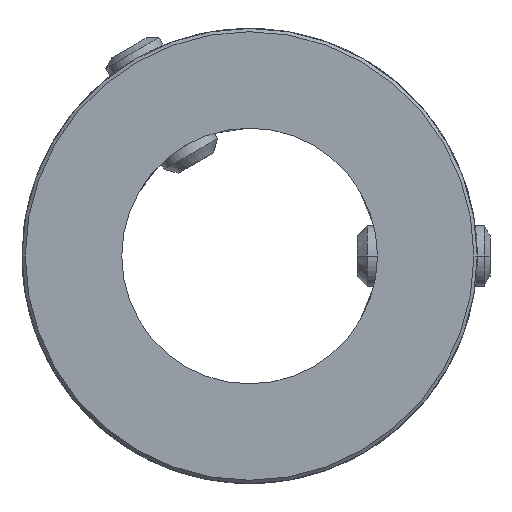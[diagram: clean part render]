
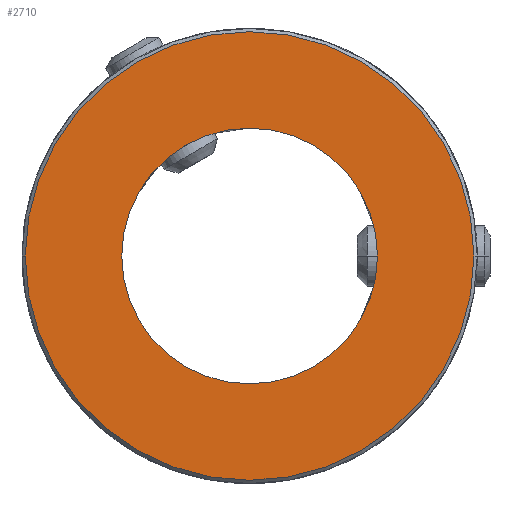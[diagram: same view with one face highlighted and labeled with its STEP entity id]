
A CAD part, front view. The second image highlights one B-rep face of the part: STEP entity #2710.
In plain terms, the highlighted planar face has unit normal (0, -1, 0).
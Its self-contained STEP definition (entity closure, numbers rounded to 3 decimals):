
#1=CARTESIAN_POINT('',(0.,-38.1,
0.));
#2=DIRECTION('',(0.,-1.,0.));
#3=DIRECTION('',(-1.,0.,0.));
#4=AXIS2_PLACEMENT_3D('',#1,#2,#3);
#6=CARTESIAN_POINT('',(0.,-38.1,
0.));
#7=DIRECTION('',(0.,-1.,0.));
#8=DIRECTION('',(1.,0.,0.));
#9=AXIS2_PLACEMENT_3D('',#6,#7,#8);
#11=CARTESIAN_POINT('',(0.,-38.1,0.));
#12=DIRECTION('',(0.,1.,0.));
#13=DIRECTION('',(1.,0.,0.));
#14=AXIS2_PLACEMENT_3D('',#11,#12,#13);
#16=CARTESIAN_POINT('',(0.,-38.1,0.));
#17=DIRECTION('',(0.,1.,0.));
#18=DIRECTION('',(-1.,0.,0.));
#19=AXIS2_PLACEMENT_3D('',#16,#17,#18);
#2475=CARTESIAN_POINT('',(12.5,-38.1,0.));
#2476=CARTESIAN_POINT('',(-12.5,-38.1,0.));
#2477=VERTEX_POINT('',#2475);
#2478=VERTEX_POINT('',#2476);
#2503=CARTESIAN_POINT('',(-21.93,-38.1,0.));
#2504=CARTESIAN_POINT('',(21.93,-38.1,0.));
#2505=VERTEX_POINT('',#2503);
#2506=VERTEX_POINT('',#2504);
#2693=CARTESIAN_POINT('',(0.,-38.1,0.));
#2694=DIRECTION('',(0.,1.,0.));
#2695=DIRECTION('',(1.,0.,0.));
#2696=AXIS2_PLACEMENT_3D('',#2693,#2694,#2695);
#2697=PLANE('',#2696);
#2699=ORIENTED_EDGE('',*,*,#2698,.F.);
#2701=ORIENTED_EDGE('',*,*,#2700,.F.);
#2702=EDGE_LOOP('',(#2699,#2701));
#2703=FACE_OUTER_BOUND('',#2702,.F.);
#2705=ORIENTED_EDGE('',*,*,#2704,.F.);
#2707=ORIENTED_EDGE('',*,*,#2706,.F.);
#2708=EDGE_LOOP('',(#2705,#2707));
#2709=FACE_BOUND('',#2708,.F.);
#2710=ADVANCED_FACE('',(#2703,#2709),#2697,.F.);
#5=CIRCLE('',#4,21.93);
#10=CIRCLE('',#9,21.93);
#15=CIRCLE('',#14,12.5);
#20=CIRCLE('',#19,12.5);
#2698=EDGE_CURVE('',#2505,#2506,#5,.T.);
#2700=EDGE_CURVE('',#2506,#2505,#10,.T.);
#2704=EDGE_CURVE('',#2477,#2478,#15,.T.);
#2706=EDGE_CURVE('',#2478,#2477,#20,.T.);
